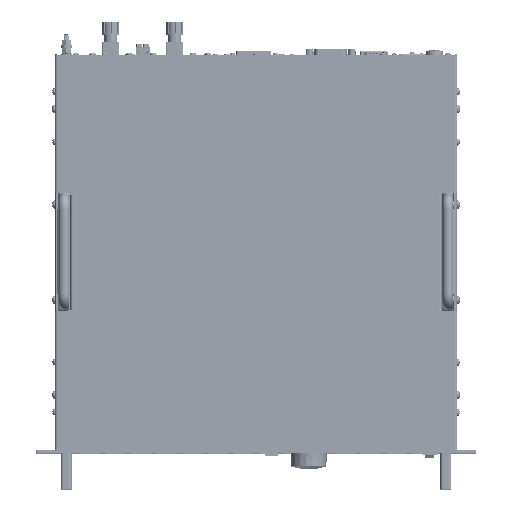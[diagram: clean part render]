
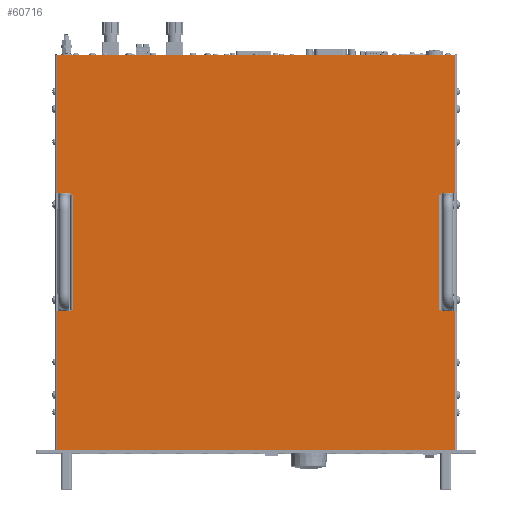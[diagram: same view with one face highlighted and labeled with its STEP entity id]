
A CAD part, top view. The second image highlights one B-rep face of the part: STEP entity #60716.
In plain terms, the highlighted planar face has unit normal (0, 0, 1).
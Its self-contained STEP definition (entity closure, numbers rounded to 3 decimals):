
#60716=ADVANCED_FACE('',(#125118),#125119,.F.);
#125118=FACE_OUTER_BOUND('',#225198,.T.);
#125119=PLANE('',#225199);
#225198=EDGE_LOOP('',(#394594,#394595,#394596,#394597,#394598,#394599,#394600,#394601,#394602,#394603,#394604,#394605,#394606,#394607,#394608,#394609,#394610,#394611,#394612,#394613));
#225199=AXIS2_PLACEMENT_3D('',#394614,#394615,#394616);
#394594=ORIENTED_EDGE('',*,*,#484415,.T.);
#394595=ORIENTED_EDGE('',*,*,#484435,.F.);
#394596=ORIENTED_EDGE('',*,*,#484436,.F.);
#394597=ORIENTED_EDGE('',*,*,#484079,.F.);
#394598=ORIENTED_EDGE('',*,*,#484401,.F.);
#394599=ORIENTED_EDGE('',*,*,#484064,.F.);
#394600=ORIENTED_EDGE('',*,*,#484390,.F.);
#394601=ORIENTED_EDGE('',*,*,#484437,.F.);
#394602=ORIENTED_EDGE('',*,*,#484433,.T.);
#394603=ORIENTED_EDGE('',*,*,#484428,.F.);
#394604=ORIENTED_EDGE('',*,*,#484425,.T.);
#394605=ORIENTED_EDGE('',*,*,#484438,.F.);
#394606=ORIENTED_EDGE('',*,*,#484366,.F.);
#394607=ORIENTED_EDGE('',*,*,#484054,.F.);
#394608=ORIENTED_EDGE('',*,*,#484355,.F.);
#394609=ORIENTED_EDGE('',*,*,#484074,.F.);
#394610=ORIENTED_EDGE('',*,*,#484439,.F.);
#394611=ORIENTED_EDGE('',*,*,#484440,.F.);
#394612=ORIENTED_EDGE('',*,*,#484412,.T.);
#394613=ORIENTED_EDGE('',*,*,#484420,.T.);
#394614=CARTESIAN_POINT('',(239.8,220.125,86.465));
#394615=DIRECTION('',(0.,0.,-1.0));
#394616=DIRECTION('',(1.0,0.,0.));
#484054=EDGE_CURVE('',#586747,#586749,#586750,.T.);
#484064=EDGE_CURVE('',#586765,#586767,#586768,.T.);
#484074=EDGE_CURVE('',#586783,#586785,#586786,.T.);
#484079=EDGE_CURVE('',#586792,#586794,#586795,.T.);
#484355=EDGE_CURVE('',#586785,#586747,#587225,.T.);
#484366=EDGE_CURVE('',#586749,#587240,#587241,.T.);
#484390=EDGE_CURVE('',#587273,#586765,#587275,.T.);
#484401=EDGE_CURVE('',#586767,#586792,#587290,.T.);
#484412=EDGE_CURVE('',#587301,#587304,#587306,.T.);
#484415=EDGE_CURVE('',#587311,#587308,#587312,.T.);
#484420=EDGE_CURVE('',#587304,#587311,#587317,.T.);
#484425=EDGE_CURVE('',#587323,#587321,#587324,.T.);
#484428=EDGE_CURVE('',#587323,#587327,#587328,.T.);
#484433=EDGE_CURVE('',#587333,#587327,#587335,.T.);
#484435=EDGE_CURVE('',#587337,#587308,#587338,.T.);
#484436=EDGE_CURVE('',#586794,#587337,#587339,.T.);
#484437=EDGE_CURVE('',#587333,#587273,#587340,.T.);
#484438=EDGE_CURVE('',#587240,#587321,#587341,.T.);
#484439=EDGE_CURVE('',#587342,#586783,#587343,.T.);
#484440=EDGE_CURVE('',#587301,#587342,#587344,.T.);
#586747=VERTEX_POINT('',#730971);
#586749=VERTEX_POINT('',#730973);
#586750=LINE('',#730974,#730975);
#586765=VERTEX_POINT('',#730993);
#586767=VERTEX_POINT('',#730995);
#586768=LINE('',#730996,#730997);
#586783=VERTEX_POINT('',#731015);
#586785=VERTEX_POINT('',#731017);
#586786=LINE('',#731018,#731019);
#586792=VERTEX_POINT('',#731026);
#586794=VERTEX_POINT('',#731028);
#586795=LINE('',#731029,#731030);
#587225=LINE('',#731581,#731582);
#587240=VERTEX_POINT('',#731602);
#587241=LINE('',#731603,#731604);
#587273=VERTEX_POINT('',#731650);
#587275=LINE('',#731653,#731654);
#587290=LINE('',#731674,#731675);
#587301=VERTEX_POINT('',#731690);
#587304=VERTEX_POINT('',#731694);
#587306=LINE('',#731696,#731697);
#587308=VERTEX_POINT('',#731699);
#587311=VERTEX_POINT('',#731703);
#587312=LINE('',#731704,#731705);
#587317=LINE('',#731710,#731711);
#587321=VERTEX_POINT('',#731716);
#587323=VERTEX_POINT('',#731719);
#587324=LINE('',#731720,#731721);
#587327=VERTEX_POINT('',#731724);
#587328=LINE('',#731725,#731726);
#587333=VERTEX_POINT('',#731731);
#587335=LINE('',#731734,#731735);
#587337=VERTEX_POINT('',#731737);
#587338=LINE('',#731738,#731739);
#587339=LINE('',#731740,#731741);
#587340=LINE('',#731742,#731743);
#587341=LINE('',#731744,#731745);
#587342=VERTEX_POINT('',#731746);
#587343=LINE('',#731747,#731748);
#587344=LINE('',#731749,#731750);
#730971=CARTESIAN_POINT('',(22.123,3.5,86.465));
#730973=CARTESIAN_POINT('',(22.123,155.5,86.465));
#730974=CARTESIAN_POINT('',(22.123,149.813,86.465));
#730975=VECTOR('',#829409,1.0);
#730993=CARTESIAN_POINT('',(22.123,284.75,86.465));
#730995=CARTESIAN_POINT('',(22.123,436.75,86.465));
#730996=CARTESIAN_POINT('',(22.123,290.438,86.465));
#730997=VECTOR('',#829425,1.0);
#731015=CARTESIAN_POINT('',(457.477,155.5,86.465));
#731017=CARTESIAN_POINT('',(457.477,3.5,86.465));
#731018=CARTESIAN_POINT('',(457.477,149.813,86.465));
#731019=VECTOR('',#829441,1.0);
#731026=CARTESIAN_POINT('',(457.477,436.75,86.465));
#731028=CARTESIAN_POINT('',(457.477,284.75,86.465));
#731029=CARTESIAN_POINT('',(457.477,290.438,86.465));
#731030=VECTOR('',#829449,1.0);
#731581=CARTESIAN_POINT('',(460.227,3.5,86.465));
#731582=VECTOR('',#829835,1.0);
#731602=CARTESIAN_POINT('',(37.373,155.5,86.465));
#731603=CARTESIAN_POINT('',(19.373,155.5,86.465));
#731604=VECTOR('',#829853,1.0);
#731650=CARTESIAN_POINT('',(37.373,284.75,86.465));
#731653=CARTESIAN_POINT('',(37.373,284.75,86.465));
#731654=VECTOR('',#829881,1.0);
#731674=CARTESIAN_POINT('',(19.373,436.75,86.465));
#731675=VECTOR('',#829899,1.0);
#731690=CARTESIAN_POINT('',(442.227,157.5,86.465));
#731694=CARTESIAN_POINT('',(440.477,157.5,86.465));
#731696=CARTESIAN_POINT('',(341.093,157.5,86.465));
#731697=VECTOR('',#829911,1.0);
#731699=CARTESIAN_POINT('',(442.227,282.75,86.465));
#731703=CARTESIAN_POINT('',(440.477,282.75,86.465));
#731704=CARTESIAN_POINT('',(341.093,282.75,86.465));
#731705=VECTOR('',#829913,1.0);
#731710=CARTESIAN_POINT('',(440.477,220.125,86.465));
#731711=VECTOR('',#829923,1.0);
#731716=CARTESIAN_POINT('',(37.373,157.5,86.465));
#731719=CARTESIAN_POINT('',(39.123,157.5,86.465));
#731720=CARTESIAN_POINT('',(138.507,157.5,86.465));
#731721=VECTOR('',#829926,1.0);
#731724=CARTESIAN_POINT('',(39.123,282.75,86.465));
#731725=CARTESIAN_POINT('',(39.123,220.125,86.465));
#731726=VECTOR('',#829930,1.0);
#731731=CARTESIAN_POINT('',(37.373,282.75,86.465));
#731734=CARTESIAN_POINT('',(138.507,282.75,86.465));
#731735=VECTOR('',#829938,1.0);
#731737=CARTESIAN_POINT('',(442.227,284.75,86.465));
#731738=CARTESIAN_POINT('',(442.227,284.75,86.465));
#731739=VECTOR('',#829939,1.0);
#731740=CARTESIAN_POINT('',(460.227,284.75,86.465));
#731741=VECTOR('',#829940,1.0);
#731742=CARTESIAN_POINT('',(37.373,282.75,86.465));
#731743=VECTOR('',#829941,1.0);
#731744=CARTESIAN_POINT('',(37.373,155.5,86.465));
#731745=VECTOR('',#829942,1.0);
#731746=CARTESIAN_POINT('',(442.227,155.5,86.465));
#731747=CARTESIAN_POINT('',(442.227,155.5,86.465));
#731748=VECTOR('',#829943,1.0);
#731749=CARTESIAN_POINT('',(442.227,157.5,86.465));
#731750=VECTOR('',#829944,1.0);
#829409=DIRECTION('',(0.0,1.0,0.));
#829425=DIRECTION('',(0.0,1.0,0.));
#829441=DIRECTION('',(0.0,-1.0,0.));
#829449=DIRECTION('',(0.0,-1.0,0.));
#829835=DIRECTION('',(-1.0,0.0,0.));
#829853=DIRECTION('',(1.0,0.0,0.0));
#829881=DIRECTION('',(-1.0,0.0,0.0));
#829899=DIRECTION('',(1.0,0.0,0.0));
#829911=DIRECTION('',(-1.0,0.0,0.0));
#829913=DIRECTION('',(1.0,0.0,0.0));
#829923=DIRECTION('',(0.0,1.0,0.));
#829926=DIRECTION('',(-1.0,0.0,0.0));
#829930=DIRECTION('',(0.0,1.0,0.));
#829938=DIRECTION('',(1.0,0.0,0.0));
#829939=DIRECTION('',(0.0,-1.0,0.));
#829940=DIRECTION('',(-1.0,0.0,0.0));
#829941=DIRECTION('',(0.0,1.0,0.));
#829942=DIRECTION('',(0.0,1.0,0.));
#829943=DIRECTION('',(1.0,0.0,0.0));
#829944=DIRECTION('',(0.0,-1.0,0.));
